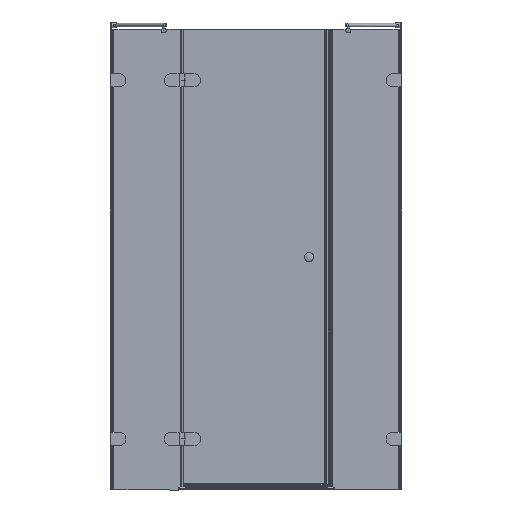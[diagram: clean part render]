
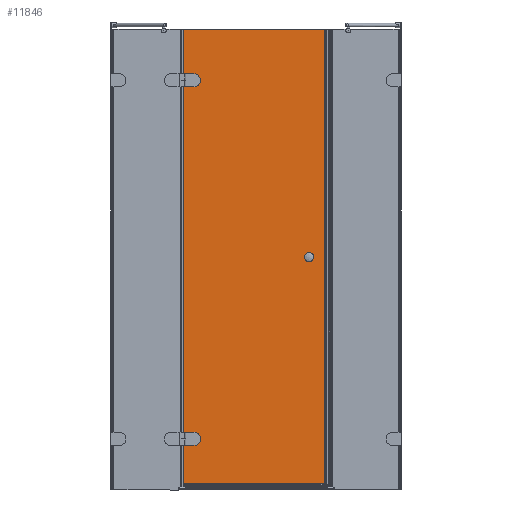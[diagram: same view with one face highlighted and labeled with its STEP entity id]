
A CAD part, front view. The second image highlights one B-rep face of the part: STEP entity #11846.
In plain terms, the highlighted planar face has unit normal (0, -1, 0).
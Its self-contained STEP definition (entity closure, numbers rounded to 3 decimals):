
#117=LINE($,#16777,#1256);
#202=LINE($,#17266,#1341);
#205=LINE($,#17272,#1344);
#209=LINE($,#17282,#1348);
#289=LINE($,#17489,#1428);
#292=LINE($,#17495,#1431);
#296=LINE($,#17505,#1435);
#942=LINE($,#19608,#2081);
#960=LINE($,#19692,#2099);
#988=LINE($,#19792,#2127);
#1256=VECTOR($,#13291,584.4);
#1341=VECTOR($,#13534,52.);
#1344=VECTOR($,#13539,23.);
#1348=VECTOR($,#13551,23.);
#1428=VECTOR($,#13753,52.);
#1431=VECTOR($,#13758,23.);
#1435=VECTOR($,#13770,23.);
#2081=VECTOR($,#15500,1875.4);
#2099=VECTOR($,#15554,1875.4);
#2127=VECTOR($,#15644,584.4);
#2677=FACE_BOUND($,#3904,.T.);
#2678=FACE_BOUND($,#3905,.T.);
#2679=FACE_BOUND($,#3906,.T.);
#3904=EDGE_LOOP($,(#9409,#9410,#9411,#9412));
#3905=EDGE_LOOP($,(#9413,#9414,#9415,#9416));
#3906=EDGE_LOOP($,(#9417,#9418,#9419,#9420));
#4181=CIRCLE($,#12194,26.);
#4202=CIRCLE($,#12260,26.);
#4558=VERTEX_POINT($,#16774);
#4559=VERTEX_POINT($,#16776);
#4687=VERTEX_POINT($,#17263);
#4688=VERTEX_POINT($,#17265);
#4690=VERTEX_POINT($,#17271);
#4692=VERTEX_POINT($,#17277);
#4757=VERTEX_POINT($,#17486);
#4758=VERTEX_POINT($,#17488);
#4760=VERTEX_POINT($,#17494);
#4762=VERTEX_POINT($,#17500);
#5315=VERTEX_POINT($,#19606);
#5339=VERTEX_POINT($,#19689);
#5580=EDGE_CURVE($,#4558,#4559,#117,.T.);
#5729=EDGE_CURVE($,#4688,#4687,#202,.T.);
#5732=EDGE_CURVE($,#4690,#4688,#205,.T.);
#5735=EDGE_CURVE($,#4692,#4690,#4181,.T.);
#5738=EDGE_CURVE($,#4687,#4692,#209,.T.);
#5837=EDGE_CURVE($,#4758,#4757,#289,.T.);
#5840=EDGE_CURVE($,#4760,#4758,#292,.T.);
#5843=EDGE_CURVE($,#4762,#4760,#4202,.T.);
#5846=EDGE_CURVE($,#4757,#4762,#296,.T.);
#6715=EDGE_CURVE($,#5315,#4558,#942,.T.);
#6746=EDGE_CURVE($,#5339,#4559,#960,.T.);
#6784=EDGE_CURVE($,#5315,#5339,#988,.T.);
#9409=ORIENTED_EDGE($,*,*,#5729,.T.);
#9410=ORIENTED_EDGE($,*,*,#5738,.T.);
#9411=ORIENTED_EDGE($,*,*,#5735,.T.);
#9412=ORIENTED_EDGE($,*,*,#5732,.T.);
#9413=ORIENTED_EDGE($,*,*,#5837,.T.);
#9414=ORIENTED_EDGE($,*,*,#5846,.T.);
#9415=ORIENTED_EDGE($,*,*,#5843,.T.);
#9416=ORIENTED_EDGE($,*,*,#5840,.T.);
#9417=ORIENTED_EDGE($,*,*,#6746,.T.);
#9418=ORIENTED_EDGE($,*,*,#5580,.F.);
#9419=ORIENTED_EDGE($,*,*,#6715,.F.);
#9420=ORIENTED_EDGE($,*,*,#6784,.T.);
#10558=PLANE($,#12852);
#11846=ADVANCED_FACE($,(#2677,#2678,#2679),#10558,.T.);
#12194=AXIS2_PLACEMENT_3D($,#17278,#13545,#13546);
#12260=AXIS2_PLACEMENT_3D($,#17501,#13764,#13765);
#12852=AXIS2_PLACEMENT_3D($,#19791,#15642,#15643);
#13291=DIRECTION($,(1.,0.,0.));
#13534=DIRECTION($,(0.,0.,1.));
#13539=DIRECTION($,(-1.,0.,0.));
#13545=DIRECTION('center_axis',(0.,1.,0.));
#13546=DIRECTION('ref_axis',(0.,0.,
1.));
#13551=DIRECTION($,(1.,0.,0.));
#13753=DIRECTION($,(0.,0.,1.));
#13758=DIRECTION($,(-1.,0.,0.));
#13764=DIRECTION('center_axis',(0.,1.,0.));
#13765=DIRECTION('ref_axis',(0.,0.,
1.));
#13770=DIRECTION($,(1.,0.,0.));
#15500=DIRECTION($,(0.,0.,1.));
#15554=DIRECTION($,(0.,0.,1.));
#15642=DIRECTION('center_axis',(0.,-1.,0.));
#15643=DIRECTION('ref_axis',(1.,0.,0.));
#15644=DIRECTION($,(1.,0.,0.));
#16774=CARTESIAN_POINT('',(732.686,45.956,1385.944));
#16776=CARTESIAN_POINT('',(1317.086,45.956,1385.944));
#16777=CARTESIAN_POINT($,(732.686,45.956,1385.944));
#17263=CARTESIAN_POINT('',(753.686,45.956,-278.056));
#17265=CARTESIAN_POINT('',(753.686,45.956,-330.056));
#17266=CARTESIAN_POINT($,(753.686,45.956,-412.056));
#17271=CARTESIAN_POINT('',(776.686,45.956,-330.056));
#17272=CARTESIAN_POINT($,(754.686,45.956,-330.056));
#17277=CARTESIAN_POINT('',(776.686,45.956,-278.056));
#17278=CARTESIAN_POINT('Origin',(776.686,45.956,-304.056));
#17282=CARTESIAN_POINT($,(743.186,45.956,-278.056));
#17486=CARTESIAN_POINT('',(753.686,45.956,1201.944));
#17488=CARTESIAN_POINT('',(753.686,45.956,1149.944));
#17489=CARTESIAN_POINT($,(753.686,45.956,327.944));
#17494=CARTESIAN_POINT('',(776.686,45.956,1149.944));
#17495=CARTESIAN_POINT($,(754.686,45.956,1149.944));
#17500=CARTESIAN_POINT('',(776.686,45.956,1201.944));
#17501=CARTESIAN_POINT('Origin',(776.686,45.956,1175.944));
#17505=CARTESIAN_POINT($,(743.186,45.956,1201.944));
#19606=CARTESIAN_POINT('',(732.686,45.956,-489.456));
#19608=CARTESIAN_POINT($,(732.686,45.956,-494.056));
#19689=CARTESIAN_POINT('',(1317.086,45.956,-489.456));
#19692=CARTESIAN_POINT($,(1317.086,45.956,-494.056));
#19791=CARTESIAN_POINT('Origin',(732.686,45.956,-494.056));
#19792=CARTESIAN_POINT($,(732.686,45.956,-489.456));
